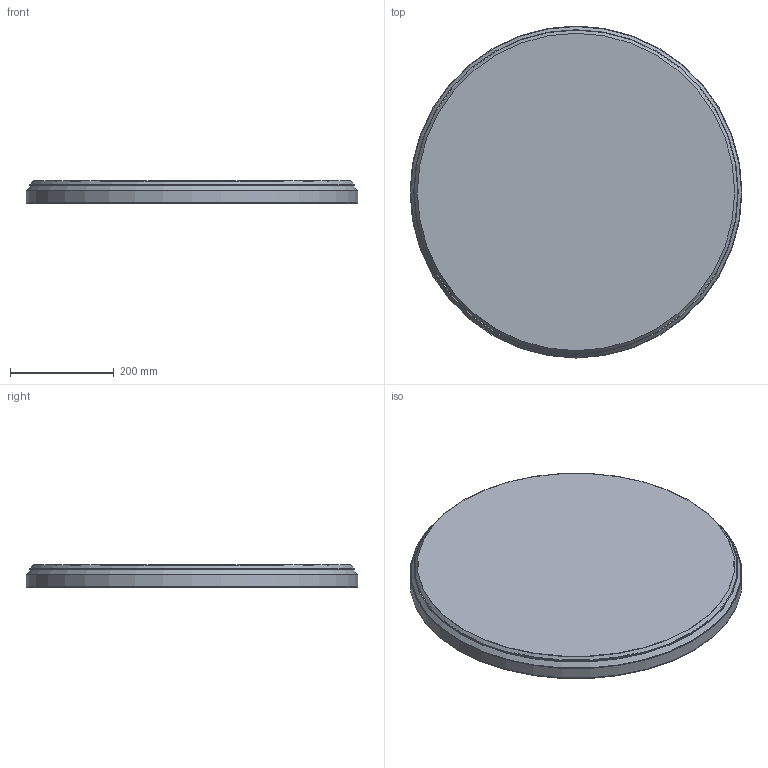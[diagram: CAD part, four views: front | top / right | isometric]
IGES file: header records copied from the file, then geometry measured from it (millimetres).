
Start section: SolidWorks IGES file using analytic representation for surfaces
Global section: file name: X:\PRODUKT\Modele 3D_WWW\_KOLEKCJE WWW\AGNES\AGNES-ROUND-LED-8210-8206-8188-8185\AGNES-ROUND-LED-8210-8206-8188-8185.IGS; native system: SolidWorks 2021; preprocessor: SolidWorks 2021; author: gabriela.tworek; date: 220708.075843; units: millimetre
Bounding box: 640 x 640 x 44.25 mm (x, y, z)
Surface area: 904619.9 mm2 (no closed solid volume)
Topology: 0 solids, 0 shells, 25 faces, 60 edges, 46 vertices
Faces by surface type: revolution 14, bspline 11
